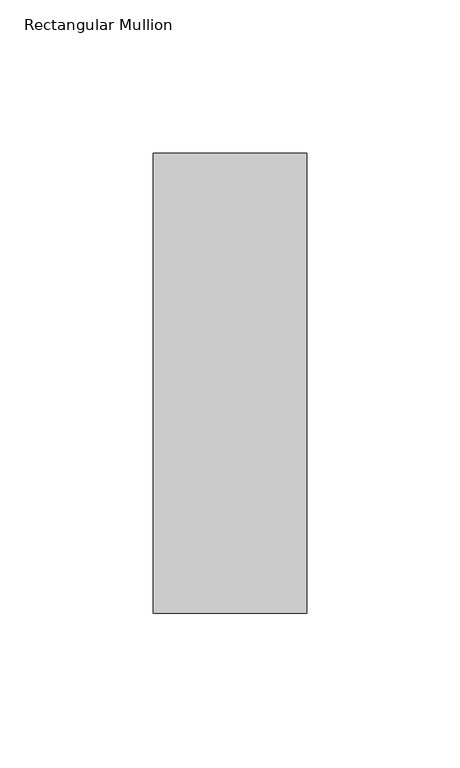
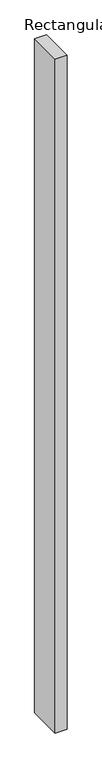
"""IFC4 building model written with IfcOpenShell, lengths in millimetres: member geometry, Rectangular Mullion : Batten_Aluminium_Modinex_AluBatten_50x150_AfricanEbony."""

from ifc_helpers import new_model, si_unit, frame, origin, place, context, project, spatial, polyline, outline, extrude, source, transform, mapped, element, save


def rectangular_mullion_26362614(model_context):
    return source(origin(), model_context, "Body", "SweptSolid", [
        extrude(outline(polyline([(25.0, 150.0), (25.0, 0.0), (-25.0, 0.0), (-25.0, 150.0), (25.0, 150.0)])), frame((0.0, 0.0, -3000.0), z_axis=(0.0, 0.0, 1.0), x_axis=(1.0, 0.0, 0.0)), (0.0, 0.0, 1.0), 3000.0),
    ])


if __name__ == "__main__":
    model = new_model("IFC4")
    model_context = context("Model", 3, world=origin())
    ifc_project = project(units=[si_unit("LENGTHUNIT", "METRE", prefix="MILLI")], contexts=[model_context])
    site = spatial("IfcSite", under=ifc_project)
    building = spatial("IfcBuilding", under=site)
    placement = place(None, origin())
    rectangular_mullion_shape = rectangular_mullion_26362614(model_context)
    element("IfcMember", 1, ObjectType="Rectangular Mullion : Batten_Aluminium_Modinex_AluBatten_50x150_AfricanEbony", at=placement, inside=building, context=model_context, shape_type="MappedRepresentation", body=[
        mapped(rectangular_mullion_shape, transform((0.0, 0.0, 0.0), x_axis=(1.0, 0.0, 0.0), y_axis=(0.0, 1.0, 0.0), z_axis=(0.0, 0.0, 1.0))),
    ])
    save(model, "model.ifc")
